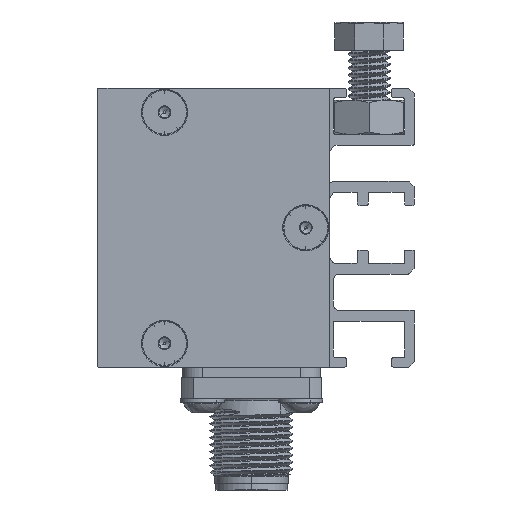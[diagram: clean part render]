
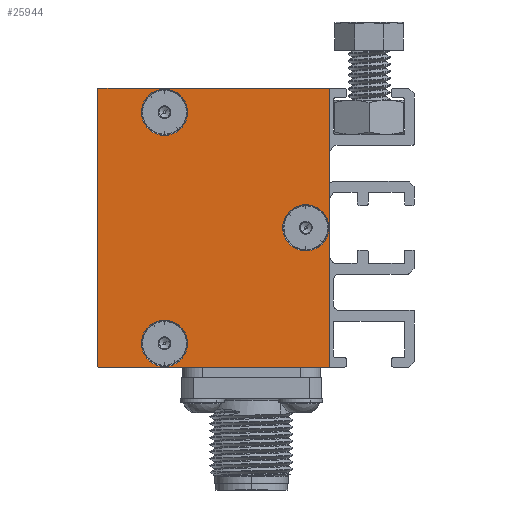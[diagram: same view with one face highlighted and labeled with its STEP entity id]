
A CAD part, left-side view. The second image highlights one B-rep face of the part: STEP entity #25944.
In plain terms, the highlighted planar face has unit normal (-1, 0, 0) as drawn and (0, 0, 1) by its records, which use the part's own axes.
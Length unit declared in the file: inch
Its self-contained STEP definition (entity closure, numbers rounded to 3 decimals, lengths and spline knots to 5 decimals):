
#17 = CARTESIAN_POINT ( 'NONE',  ( -0.776, 1.04913, 0.125 ) ) ;
#371 = ORIENTED_EDGE ( 'NONE', *, *, #6281, .T. ) ;
#466 = ORIENTED_EDGE ( 'NONE', *, *, #29650, .F. ) ;
#1789 = LINE ( 'NONE', #5104, #11664 ) ;
#1927 = ORIENTED_EDGE ( 'NONE', *, *, #29910, .F. ) ;
#2337 = EDGE_CURVE ( 'NONE', #27815, #3785, #19155, .T. ) ;
#2464 = CARTESIAN_POINT ( 'NONE',  ( 0.12989, -0.11287, 0.125 ) ) ;
#2546 = DIRECTION ( 'NONE',  ( 0., 0., 1. ) ) ;
#2660 = VERTEX_POINT ( 'NONE', #21736 ) ;
#3287 = CARTESIAN_POINT ( 'NONE',  ( -0.77889, 0.68113, 0.125 ) ) ;
#3300 = EDGE_CURVE ( 'NONE', #3785, #27815, #19539, .T. ) ;
#3411 = ORIENTED_EDGE ( 'NONE', *, *, #17479, .T. ) ;
#3467 = VERTEX_POINT ( 'NONE', #15306 ) ;
#3667 = DIRECTION ( 'NONE',  ( 1., 0., 0. ) ) ;
#3785 = VERTEX_POINT ( 'NONE', #12355 ) ;
#3827 = VECTOR ( 'NONE', #9897, 39.37008 ) ;
#3903 = CARTESIAN_POINT ( 'NONE',  ( 0.784, 0., 0.125 ) ) ;
#4149 = CARTESIAN_POINT ( 'NONE',  ( 0., 1.05713, 0.125 ) ) ;
#4487 = CARTESIAN_POINT ( 'NONE',  ( 0.649, 0.68113, 0.125 ) ) ;
#4586 = EDGE_CURVE ( 'NONE', #16155, #10165, #23467, .T. ) ;
#4724 = VERTEX_POINT ( 'NONE', #7342 ) ;
#4796 = CARTESIAN_POINT ( 'NONE',  ( 0., -0.24787, 0.125 ) ) ;
#4827 = DIRECTION ( 'NONE',  ( 1., 0., 0. ) ) ;
#5104 = CARTESIAN_POINT ( 'NONE',  ( -0.784, 0., 0.125 ) ) ;
#6281 = EDGE_CURVE ( 'NONE', #2660, #3467, #27679, .T. ) ;
#6288 = CIRCLE ( 'NONE', #30808, 0.12989 ) ;
#6309 = DIRECTION ( 'NONE',  ( 0., 0., 1. ) ) ;
#6318 = CARTESIAN_POINT ( 'NONE',  ( 0., -0.11287, 0.125 ) ) ;
#6424 = EDGE_LOOP ( 'NONE', ( #17395, #8413, #1927, #371, #14298, #6997, #19707, #3411 ) ) ;
#6425 = CARTESIAN_POINT ( 'NONE',  ( 0., -0.11287, 0.125 ) ) ;
#6496 = CARTESIAN_POINT ( 'NONE',  ( -0.784, 1.04913, 0.125 ) ) ;
#6679 = VECTOR ( 'NONE', #13015, 39.37008 ) ;
#6771 = CARTESIAN_POINT ( 'NONE',  ( -0.12989, -0.11287, 0.125 ) ) ;
#6997 = ORIENTED_EDGE ( 'NONE', *, *, #14492, .T. ) ;
#7256 = CARTESIAN_POINT ( 'NONE',  ( 0.649, 0.68113, 0.125 ) ) ;
#7342 = CARTESIAN_POINT ( 'NONE',  ( -0.51911, 0.68113, 0.125 ) ) ;
#7712 = CIRCLE ( 'NONE', #22208, 0.008 ) ;
#7774 = EDGE_CURVE ( 'NONE', #33376, #20395, #7712, .T. ) ;
#7794 = FACE_BOUND ( 'NONE', #20946, .T. ) ;
#7978 = DIRECTION ( 'NONE',  ( 1., 0., 0. ) ) ;
#8261 = EDGE_CURVE ( 'NONE', #3467, #23718, #28606, .T. ) ;
#8413 = ORIENTED_EDGE ( 'NONE', *, *, #7774, .T. ) ;
#9054 = DIRECTION ( 'NONE',  ( 0., 0., 1. ) ) ;
#9711 = DIRECTION ( 'NONE',  ( 1., 0., 0. ) ) ;
#9831 = CARTESIAN_POINT ( 'NONE',  ( -0.776, 1.05713, 0.125 ) ) ;
#9897 = DIRECTION ( 'NONE',  ( -1., 0., 0. ) ) ;
#9944 = AXIS2_PLACEMENT_3D ( 'NONE', #17, #20957, #26009 ) ;
#10165 = VERTEX_POINT ( 'NONE', #6771 ) ;
#10405 = CARTESIAN_POINT ( 'NONE',  ( 0., 0., 0.125 ) ) ;
#10618 = CARTESIAN_POINT ( 'NONE',  ( -0.776, -0.24787, 0.125 ) ) ;
#11338 = AXIS2_PLACEMENT_3D ( 'NONE', #18168, #15209, #12575 ) ;
#11664 = VECTOR ( 'NONE', #17842, 39.37008 ) ;
#11836 = DIRECTION ( 'NONE',  ( 1., 0., 0. ) ) ;
#11972 = VERTEX_POINT ( 'NONE', #6496 ) ;
#12289 = EDGE_LOOP ( 'NONE', ( #26981, #16160 ) ) ;
#12355 = CARTESIAN_POINT ( 'NONE',  ( 0.51911, 0.68113, 0.125 ) ) ;
#12368 = EDGE_CURVE ( 'NONE', #10165, #16155, #23217, .T. ) ;
#12575 = DIRECTION ( 'NONE',  ( 1., 0., 0. ) ) ;
#12860 = PLANE ( 'NONE',  #22834 ) ;
#13015 = DIRECTION ( 'NONE',  ( -1., 0., 0. ) ) ;
#13199 = CARTESIAN_POINT ( 'NONE',  ( 0.776, -0.23987, 0.125 ) ) ;
#13501 = EDGE_LOOP ( 'NONE', ( #23080, #466 ) ) ;
#13546 = CARTESIAN_POINT ( 'NONE',  ( -0.649, 0.68113, 0.125 ) ) ;
#14298 = ORIENTED_EDGE ( 'NONE', *, *, #8261, .T. ) ;
#14492 = EDGE_CURVE ( 'NONE', #23718, #11972, #15522, .T. ) ;
#14582 = VERTEX_POINT ( 'NONE', #32476 ) ;
#15209 = DIRECTION ( 'NONE',  ( 0., 0., 1. ) ) ;
#15306 = CARTESIAN_POINT ( 'NONE',  ( 0.776, 1.05713, 0.125 ) ) ;
#15459 = FACE_BOUND ( 'NONE', #12289, .T. ) ;
#15522 = CIRCLE ( 'NONE', #9944, 0.008 ) ;
#15856 = DIRECTION ( 'NONE',  ( 1., 0., 0. ) ) ;
#16155 = VERTEX_POINT ( 'NONE', #2464 ) ;
#16160 = ORIENTED_EDGE ( 'NONE', *, *, #12368, .F. ) ;
#16781 = DIRECTION ( 'NONE',  ( 0., 0., 1. ) ) ;
#17236 = EDGE_CURVE ( 'NONE', #11972, #14582, #1789, .T. ) ;
#17395 = ORIENTED_EDGE ( 'NONE', *, *, #22334, .F. ) ;
#17479 = EDGE_CURVE ( 'NONE', #14582, #33892, #18918, .T. ) ;
#17842 = DIRECTION ( 'NONE',  ( 0., -1., 0. ) ) ;
#17887 = AXIS2_PLACEMENT_3D ( 'NONE', #6318, #16781, #3667 ) ;
#18168 = CARTESIAN_POINT ( 'NONE',  ( -0.649, 0.68113, 0.125 ) ) ;
#18766 = DIRECTION ( 'NONE',  ( 1., 0., 0. ) ) ;
#18907 = ORIENTED_EDGE ( 'NONE', *, *, #3300, .F. ) ;
#18918 = CIRCLE ( 'NONE', #23403, 0.008 ) ;
#19155 = CIRCLE ( 'NONE', #29227, 0.12989 ) ;
#19360 = CARTESIAN_POINT ( 'NONE',  ( 0.776, -0.24787, 0.125 ) ) ;
#19539 = CIRCLE ( 'NONE', #30136, 0.12989 ) ;
#19707 = ORIENTED_EDGE ( 'NONE', *, *, #17236, .T. ) ;
#20324 = LINE ( 'NONE', #3903, #33644 ) ;
#20395 = VERTEX_POINT ( 'NONE', #28969 ) ;
#20946 = EDGE_LOOP ( 'NONE', ( #30463, #18907 ) ) ;
#20957 = DIRECTION ( 'NONE',  ( 0., 0., 1. ) ) ;
#21736 = CARTESIAN_POINT ( 'NONE',  ( 0.784, 1.04913, 0.125 ) ) ;
#22208 = AXIS2_PLACEMENT_3D ( 'NONE', #13199, #34361, #23711 ) ;
#22334 = EDGE_CURVE ( 'NONE', #33376, #33892, #26464, .T. ) ;
#22834 = AXIS2_PLACEMENT_3D ( 'NONE', #10405, #2546, #7978 ) ;
#23080 = ORIENTED_EDGE ( 'NONE', *, *, #30317, .F. ) ;
#23217 = CIRCLE ( 'NONE', #31588, 0.12989 ) ;
#23403 = AXIS2_PLACEMENT_3D ( 'NONE', #28137, #6309, #25333 ) ;
#23467 = CIRCLE ( 'NONE', #17887, 0.12989 ) ;
#23522 = DIRECTION ( 'NONE',  ( 0., 0., 1. ) ) ;
#23711 = DIRECTION ( 'NONE',  ( 1., 0., 0. ) ) ;
#23718 = VERTEX_POINT ( 'NONE', #9831 ) ;
#25333 = DIRECTION ( 'NONE',  ( 1., 0., 0. ) ) ;
#25446 = DIRECTION ( 'NONE',  ( 0., 0., 1. ) ) ;
#25944 = ADVANCED_FACE ( 'NONE', ( #7794, #31544, #15459, #34192 ), #12860, .T. ) ;
#26009 = DIRECTION ( 'NONE',  ( 1., 0., 0. ) ) ;
#26464 = LINE ( 'NONE', #4796, #6679 ) ;
#26521 = DIRECTION ( 'NONE',  ( 0., 0., 1. ) ) ;
#26981 = ORIENTED_EDGE ( 'NONE', *, *, #4586, .F. ) ;
#27679 = CIRCLE ( 'NONE', #34405, 0.008 ) ;
#27815 = VERTEX_POINT ( 'NONE', #30874 ) ;
#28137 = CARTESIAN_POINT ( 'NONE',  ( -0.776, -0.23987, 0.125 ) ) ;
#28606 = LINE ( 'NONE', #4149, #3827 ) ;
#28925 = VERTEX_POINT ( 'NONE', #3287 ) ;
#28969 = CARTESIAN_POINT ( 'NONE',  ( 0.784, -0.23987, 0.125 ) ) ;
#28973 = CARTESIAN_POINT ( 'NONE',  ( 0.776, 1.04913, 0.125 ) ) ;
#29227 = AXIS2_PLACEMENT_3D ( 'NONE', #7256, #33988, #9711 ) ;
#29650 = EDGE_CURVE ( 'NONE', #28925, #4724, #6288, .T. ) ;
#29910 = EDGE_CURVE ( 'NONE', #2660, #20395, #20324, .T. ) ;
#30136 = AXIS2_PLACEMENT_3D ( 'NONE', #4487, #25446, #4827 ) ;
#30317 = EDGE_CURVE ( 'NONE', #4724, #28925, #32534, .T. ) ;
#30463 = ORIENTED_EDGE ( 'NONE', *, *, #2337, .F. ) ;
#30808 = AXIS2_PLACEMENT_3D ( 'NONE', #13546, #23522, #18766 ) ;
#30874 = CARTESIAN_POINT ( 'NONE',  ( 0.77889, 0.68113, 0.125 ) ) ;
#30972 = DIRECTION ( 'NONE',  ( 0., -1., 0. ) ) ;
#31544 = FACE_BOUND ( 'NONE', #13501, .T. ) ;
#31588 = AXIS2_PLACEMENT_3D ( 'NONE', #6425, #9054, #11836 ) ;
#32476 = CARTESIAN_POINT ( 'NONE',  ( -0.784, -0.23987, 0.125 ) ) ;
#32534 = CIRCLE ( 'NONE', #11338, 0.12989 ) ;
#33376 = VERTEX_POINT ( 'NONE', #19360 ) ;
#33644 = VECTOR ( 'NONE', #30972, 39.37008 ) ;
#33892 = VERTEX_POINT ( 'NONE', #10618 ) ;
#33988 = DIRECTION ( 'NONE',  ( 0., 0., 1. ) ) ;
#34192 = FACE_OUTER_BOUND ( 'NONE', #6424, .T. ) ;
#34361 = DIRECTION ( 'NONE',  ( 0., 0., 1. ) ) ;
#34405 = AXIS2_PLACEMENT_3D ( 'NONE', #28973, #26521, #15856 ) ;
